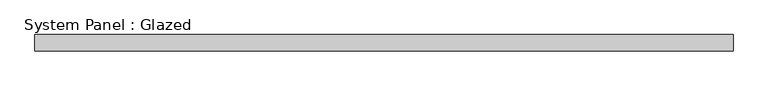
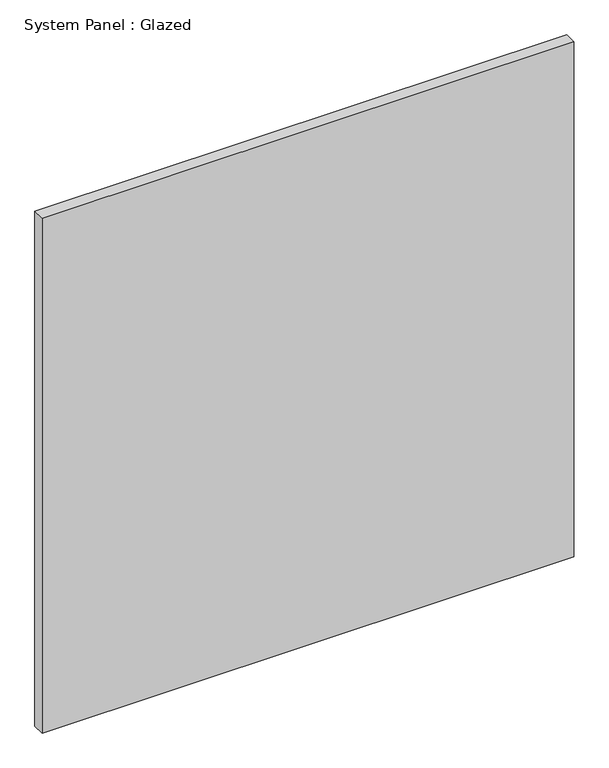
"""IFC4 building model written with IfcOpenShell, lengths in millimetres: plate geometry, System Panel : Glazed."""

import ifcopenshell
import ifcopenshell.guid

model = None  # the IFC model being written
_history = None  # IfcOwnerHistory: only IFC2X3 demands one
_inside = {}  # id of a spatial element -> (the spatial element, [elements in it])
_under = {}  # id of a project, library or spatial element -> (it, [spatial elements below it])
_declared = {}  # id of a project -> (the project, [libraries it declares])
_typed = {}  # id of a type object -> (the type object, [elements of that type])
_made_of = {}  # id of a material, layer set ... -> (it, [elements and type objects made of it])


def new_model(schema):
    """Start an empty IFC model of exactly this schema.

    Asked for "IFC4X3", IfcOpenShell would pick the latest addendum, in which some entities
    have other attributes; the version numbers below select the first issue.
    IFC2X3 requires an IfcOwnerHistory on every rooted entity: one is made here for all.
    """
    global model, _history
    if schema == "IFC4X3":
        model = ifcopenshell.file(schema_version=(4, 3, 0, 0))
    else:
        model = ifcopenshell.file(schema=schema)
    _inside.clear()
    _under.clear()
    _declared.clear()
    _typed.clear()
    _made_of.clear()
    _history = None
    if model.schema == "IFC2X3":
        org = make("IfcOrganization", Name="unknown")
        user = make(
            "IfcPersonAndOrganization",
            ThePerson=make("IfcPerson", FamilyName="unknown"),
            TheOrganization=org,
        )
        app = make(
            "IfcApplication",
            ApplicationDeveloper=org,
            Version="unknown",
            ApplicationFullName="unknown",
            ApplicationIdentifier="unknown",
        )
        _history = make(
            "IfcOwnerHistory",
            OwningUser=user,
            OwningApplication=app,
            ChangeAction="ADDED",
            CreationDate=0,
        )
    return model


def make(cls, **values):
    """One entity of the class cls with the attributes given. An attribute that is None is left unset."""
    return model.create_entity(
        cls, **{name: value for name, value in values.items() if value is not None}
    )


def rooted(cls, **values):
    """An entity with a GlobalId (a new one), such as an element, a storey or a relation."""
    return make(cls, GlobalId=ifcopenshell.guid.new(), OwnerHistory=_history, **values)


def si_unit(unit_type, name, prefix=None):
    """IfcSIUnit, for example si_unit("LENGTHUNIT", "METRE", prefix="MILLI")."""
    return make("IfcSIUnit", UnitType=unit_type, Prefix=prefix, Name=name)


def assignment(units):
    """IfcUnitAssignment: the units of a project."""
    return None if units is None else make("IfcUnitAssignment", Units=units)


def point(xyz):
    """IfcCartesianPoint."""
    return None if xyz is None else make("IfcCartesianPoint", Coordinates=xyz)


def direction(xyz):
    """IfcDirection."""
    return None if xyz is None else make("IfcDirection", DirectionRatios=xyz)


def frame(location, z_axis=None, x_axis=None):
    """IfcAxis2Placement3D, a coordinate frame: its origin and axes. An axis left out is left unset."""
    return make(
        "IfcAxis2Placement3D",
        Location=point(location),
        Axis=direction(z_axis),
        RefDirection=direction(x_axis),
    )


def origin():
    """The frame at (0, 0, 0) with its axes left unset."""
    return frame((0.0, 0.0, 0.0))


def origin_with_axes():
    """The frame at (0, 0, 0) with the z axis (0, 0, 1) and the x axis (1, 0, 0) written out."""
    return frame((0.0, 0.0, 0.0), z_axis=(0.0, 0.0, 1.0), x_axis=(1.0, 0.0, 0.0))


def place(relative_to, where):
    """IfcLocalPlacement: puts the frame where relative to a parent placement (None: the world)."""
    return make(
        "IfcLocalPlacement", PlacementRelTo=relative_to, RelativePlacement=where
    )


def context(
    kind, dimensions, precision=None, world=None, true_north=None, identifier=None
):
    """IfcGeometricRepresentationContext, for example the 3D "Model" context."""
    return make(
        "IfcGeometricRepresentationContext",
        ContextIdentifier=identifier,
        ContextType=kind,
        CoordinateSpaceDimension=dimensions,
        Precision=precision,
        WorldCoordinateSystem=world,
        TrueNorth=true_north,
    )


def project(units=None, contexts=None):
    """IfcProject with its units and contexts."""
    return rooted(
        "IfcProject",
        Name="project",
        RepresentationContexts=contexts,
        UnitsInContext=assignment(units),
    )


def spatial(cls, under=None, at=None, **own):
    """A site, building, storey or space (cls), placed at a placement, below another one or the project."""
    s = rooted(cls, ObjectPlacement=at, **own)
    if under is not None:
        _under.setdefault(under.id(), (under, []))[1].append(s)
    return s


def polyline(points):
    """IfcPolyline through the points."""
    return make("IfcPolyline", Points=[point(p) for p in points])


def outline(outer, holes=None, kind="AREA"):
    """IfcArbitraryClosedProfileDef: a profile drawn as a closed curve; with holes, ...WithVoids."""
    if holes is None:
        return make("IfcArbitraryClosedProfileDef", ProfileType=kind, OuterCurve=outer)
    return make(
        "IfcArbitraryProfileDefWithVoids",
        ProfileType=kind,
        OuterCurve=outer,
        InnerCurves=holes,
    )


def extrude(swept, where, along, depth):
    """IfcExtrudedAreaSolid: the profile swept, set in the frame where, extruded along a direction by depth."""
    return make(
        "IfcExtrudedAreaSolid",
        SweptArea=swept,
        Position=where,
        ExtrudedDirection=direction(along),
        Depth=depth,
    )


def shape(context_of_items, identifier, shape_type, items):
    """IfcShapeRepresentation: the items that make up one representation, for example the "Body"."""
    return make(
        "IfcShapeRepresentation",
        ContextOfItems=context_of_items,
        RepresentationIdentifier=identifier,
        RepresentationType=shape_type,
        Items=items,
    )


def source(mapping_origin, context_of_items, identifier, shape_type, items):
    """IfcRepresentationMap: a shape defined once, which mapped items show again and again."""
    return make(
        "IfcRepresentationMap",
        MappingOrigin=mapping_origin,
        MappedRepresentation=shape(context_of_items, identifier, shape_type, items),
    )


def transform(
    local_origin,
    x_axis=None,
    y_axis=None,
    z_axis=None,
    scale=None,
    scale2=None,
    scale3=None,
    uniform=True,
):
    """IfcCartesianTransformationOperator3D, or its non-uniform kind. x_axis, y_axis, z_axis: its Axis1, 2, 3."""
    if uniform:
        return make(
            "IfcCartesianTransformationOperator3D",
            Axis1=direction(x_axis),
            Axis2=direction(y_axis),
            LocalOrigin=point(local_origin),
            Scale=scale,
            Axis3=direction(z_axis),
        )
    return make(
        "IfcCartesianTransformationOperator3DnonUniform",
        Axis1=direction(x_axis),
        Axis2=direction(y_axis),
        LocalOrigin=point(local_origin),
        Scale=scale,
        Axis3=direction(z_axis),
        Scale2=scale2,
        Scale3=scale3,
    )


def mapped(mapping_source, mapping_target):
    """IfcMappedItem: shows the shape of a source again, moved by a transform."""
    return make(
        "IfcMappedItem", MappingSource=mapping_source, MappingTarget=mapping_target
    )


def made_of(thing, what):
    """Note that an element or type object is made of a material, layer set ...; save() writes the relation."""
    if what is not None:
        _made_of.setdefault(what.id(), (what, []))[1].append(thing)
    return thing


def element(
    cls,
    number,
    at=None,
    inside=None,
    cuts=None,
    type_object=None,
    material=None,
    context=None,
    identifier="Body",
    shape_type=None,
    held_by="IfcProductDefinitionShape",
    body=None,
    shapes=None,
    **own,
):
    """One element of the class cls, such as IfcWall. Its Tag is "e" and its number.

    at: its placement. inside: the storey or other place that contains it. cuts: it is an
    opening in that element (IfcRelVoidsElement). A single representation is given by context,
    identifier, shape_type and body (its items); several are given by shapes. held_by: the class
    of the entity that holds the representations. save() writes the other relations.
    """
    e = rooted(cls, Tag="e%d" % number, ObjectPlacement=at, **own)
    if body is not None:
        shapes = [shape(context, identifier, shape_type, body)]
    if shapes is not None:
        e.Representation = make(held_by, Representations=shapes)
    if inside is not None:
        _inside.setdefault(inside.id(), (inside, []))[1].append(e)
    if cuts is not None:
        rooted(
            "IfcRelVoidsElement", RelatingBuildingElement=cuts, RelatedOpeningElement=e
        )
    if type_object is not None:
        _typed.setdefault(type_object.id(), (type_object, []))[1].append(e)
    return made_of(e, material)


def aggregate(whole, parts):
    """IfcRelAggregates: a whole, such as a stair, and the parts it consists of."""
    return rooted("IfcRelAggregates", RelatingObject=whole, RelatedObjects=parts)


def save(model, path):
    """Write the relations noted so far, then the file.

    IfcRelAggregates (storeys below a building ...), IfcRelContainedInSpatialStructure (elements
    in a storey), IfcRelDefinesByType, IfcRelAssociatesMaterial and IfcRelDeclares: one each for
    every whole, place, type object, material and project.
    """
    for whole, parts in _under.values():
        aggregate(whole, parts)
    for where, things in _inside.values():
        rooted(
            "IfcRelContainedInSpatialStructure",
            RelatedElements=things,
            RelatingStructure=where,
        )
    for kind, things in _typed.values():
        rooted("IfcRelDefinesByType", RelatedObjects=things, RelatingType=kind)
    for what, things in _made_of.values():
        rooted("IfcRelAssociatesMaterial", RelatedObjects=things, RelatingMaterial=what)
    for by, libraries in _declared.values():
        rooted("IfcRelDeclares", RelatingContext=by, RelatedDefinitions=libraries)
    model.write(path)


def system_panel_glazed_ce2914f7(model_context):
    return source(origin(), model_context, "Body", "SweptSolid", [
        extrude(outline(polyline([(548.9162502, 19.05), (-548.9162502, 19.05), (-548.9162502, 44.45), (548.9162502, 44.45), (548.9162502, 19.05)])), origin_with_axes(), (0.0, 0.0, 1.0), 1123.95),
    ])


if __name__ == "__main__":
    model = new_model("IFC4")
    model_context = context("Model", 3, world=origin())
    ifc_project = project(units=[si_unit("LENGTHUNIT", "METRE", prefix="MILLI")], contexts=[model_context])
    site = spatial("IfcSite", under=ifc_project)
    building = spatial("IfcBuilding", under=site)
    placement = place(None, origin())
    system_panel_glazed_shape = system_panel_glazed_ce2914f7(model_context)
    element("IfcPlate", 1, ObjectType="System Panel : Glazed", at=placement, inside=building, context=model_context, shape_type="MappedRepresentation", body=[
        mapped(system_panel_glazed_shape, transform((0.0, 0.0, 0.0), x_axis=(1.0, 0.0, 0.0), y_axis=(0.0, 1.0, 0.0), z_axis=(0.0, 0.0, 1.0))),
    ])
    save(model, "model.ifc")
